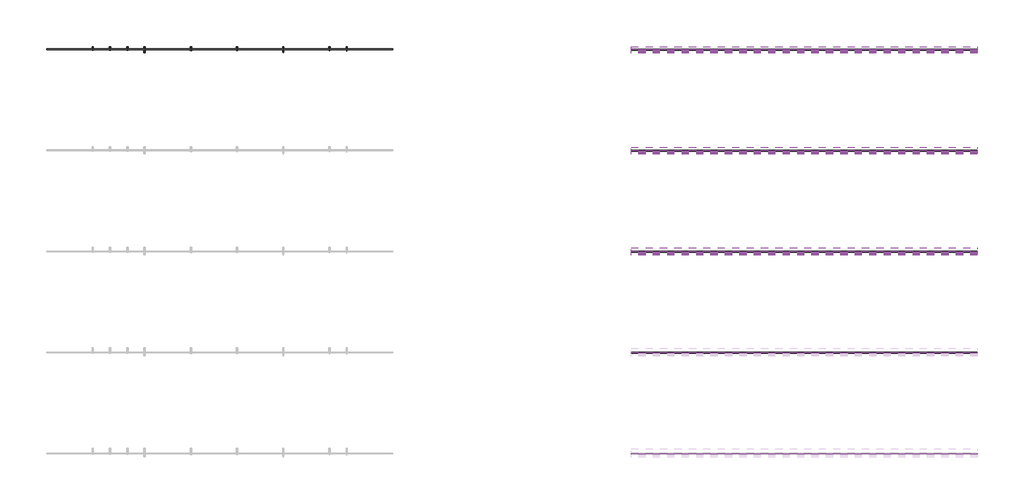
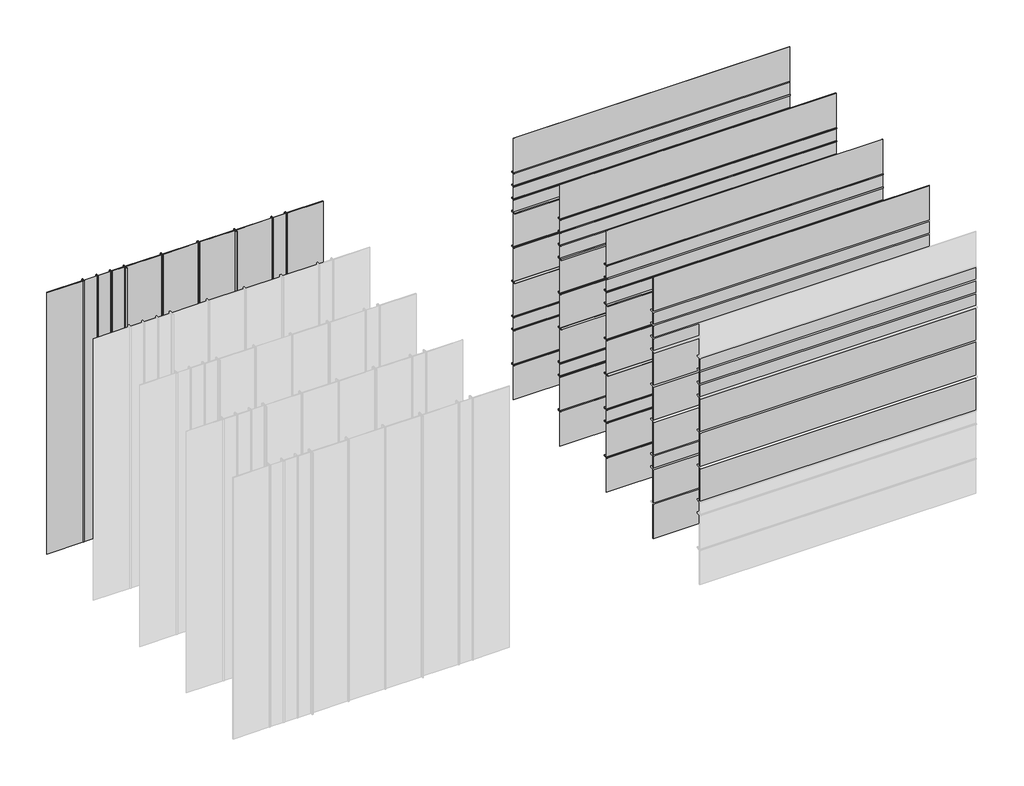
# One storey, part 3 of 3: 56 plates, 36 members.
"""IFC4 building model written with IfcOpenShell, lengths in millimetres."""

from ifc_helpers import new_model, si_unit, origin, place, context, project, spatial, transform, mapped, element, save
from components import rectangular_mullion_864811ac, rectangular_mullion_f144b1d0, rectangular_mullion_a4653e5e, rectangular_mullion_55d4cf0e, rectangular_mullion_9e8da244, rectangular_mullion_31bb69b8, rectangular_mullion_9ff2e521, rectangular_mullion_4e2d26aa, rectangular_mullion_65842ac5, rectangular_mullion_926e1737, rectangular_mullion_f53bd028, rectangular_mullion_f1bd58e3, rectangular_mullion_6b0ed9ac, rectangular_mullion_d9bfe010, rectangular_mullion_b46a96dc, rectangular_mullion_c69a8f91, rectangular_mullion_db2c93b4, rectangular_mullion_120c3908, rectangular_mullion_693bc9d2, rectangular_mullion_8fbd9535, rectangular_mullion_25a7c6fc, rectangular_mullion_629073e1, rectangular_mullion_5f3b20f2, rectangular_mullion_7f9c3200, rectangular_mullion_da6e7a92, rectangular_mullion_d2fe4da0, rectangular_mullion_e10f46b2, rectangular_mullion_2f30c226, system_panel_glazed_d93a0c65, system_panel_glazed_eeb16b76, system_panel_glazed_27cd61de, system_panel_glazed_01db162c, system_panel_glazed_1a993f0c, system_panel_glazed_b61b2489, system_panel_glazed_47dfef42, system_panel_glazed_590bdfaf

model = new_model("IFC4")

# Units and contexts
model_context = context("Model", 3, world=origin())
ifc_project = project(units=[si_unit("LENGTHUNIT", "METRE", prefix="MILLI")], contexts=[model_context])

# Site, building, storey
site = spatial("IfcSite", under=ifc_project)
building = spatial("IfcBuilding", under=site)
storey = spatial("IfcBuildingStorey", under=building, Name="REY 01 - Overview Mullions", Elevation=0.0)

# Members
placement = place(None, origin())
rectangular_mullion_shape = rectangular_mullion_864811ac(model_context)
element("IfcMember", 1, ObjectType="Rectangular Mullion : Reynaers_CW-50_Transom-Transom_83.5mm_Facecap-02A", at=placement, inside=storey, context=model_context, shape_type="MappedRepresentation", body=[
    mapped(rectangular_mullion_shape, transform((-14129.591144, 2399.6459989, 0.0), x_axis=(-1.0, 0.0, 0.0), y_axis=(0.0, 1.0, 0.0), z_axis=(0.0, 0.0, -1.0))),
])
element("IfcMember", 2, ObjectType="Rectangular Mullion : Reynaers_CW-50_Transom-Transom_83.5mm_Facecap-02A", at=placement, inside=storey, context=model_context, shape_type="MappedRepresentation", body=[
    mapped(rectangular_mullion_shape, transform((4520.408856, 2387.1459989, 10400.0), x_axis=(0.0, 0.0, 1.0), y_axis=(0.0, 1.0, 0.0), z_axis=(-1.0, 0.0, 0.0))),
])
rectangular_mullion_2_shape = rectangular_mullion_f144b1d0(model_context)
element("IfcMember", 3, ObjectType="Rectangular Mullion : Reynaers_CW-50_Transom-Transom_83.5mm_Facecap-02B", at=placement, inside=storey, context=model_context, shape_type="MappedRepresentation", body=[
    mapped(rectangular_mullion_2_shape, transform((-13529.591144, 2399.6459989, 0.0), x_axis=(-1.0, 0.0, 0.0), y_axis=(0.0, 1.0, 0.0), z_axis=(0.0, 0.0, -1.0))),
])
element("IfcMember", 4, ObjectType="Rectangular Mullion : Reynaers_CW-50_Transom-Transom_83.5mm_Facecap-02B", at=placement, inside=storey, context=model_context, shape_type="MappedRepresentation", body=[
    mapped(rectangular_mullion_2_shape, transform((4520.408856, 2387.1459989, 9800.0), x_axis=(0.0, 0.0, 1.0), y_axis=(0.0, 1.0, 0.0), z_axis=(-1.0, 0.0, 0.0))),
])
rectangular_mullion_3_shape = rectangular_mullion_a4653e5e(model_context)
element("IfcMember", 5, ObjectType="Rectangular Mullion : Reynaers_CW-50_Transom-Transom_83.5mm_Facecap-02C", at=placement, inside=storey, context=model_context, shape_type="MappedRepresentation", body=[
    mapped(rectangular_mullion_3_shape, transform((-12929.591144, 2399.6459989, 0.0), x_axis=(-1.0, 0.0, 0.0), y_axis=(0.0, 1.0, 0.0), z_axis=(0.0, 0.0, -1.0))),
])
element("IfcMember", 6, ObjectType="Rectangular Mullion : Reynaers_CW-50_Transom-Transom_83.5mm_Facecap-02C", at=placement, inside=storey, context=model_context, shape_type="MappedRepresentation", body=[
    mapped(rectangular_mullion_3_shape, transform((4520.408856, 2387.1459989, 9200.0), x_axis=(0.0, 0.0, 1.0), y_axis=(0.0, 1.0, 0.0), z_axis=(-1.0, 0.0, 0.0))),
])
rectangular_mullion_4_shape = rectangular_mullion_55d4cf0e(model_context)
element("IfcMember", 7, ObjectType="Rectangular Mullion : Reynaers_CW-50_Transom-Transom_83.5mm_Facecap-02D", at=placement, inside=storey, context=model_context, shape_type="MappedRepresentation", body=[
    mapped(rectangular_mullion_4_shape, transform((-12329.591144, 2399.6459989, 0.0), x_axis=(-1.0, 0.0, 0.0), y_axis=(0.0, 1.0, 0.0), z_axis=(0.0, 0.0, -1.0))),
])
element("IfcMember", 8, ObjectType="Rectangular Mullion : Reynaers_CW-50_Transom-Transom_83.5mm_Facecap-02D", at=placement, inside=storey, context=model_context, shape_type="MappedRepresentation", body=[
    mapped(rectangular_mullion_4_shape, transform((4520.408856, 2387.1459989, 8600.0), x_axis=(0.0, 0.0, 1.0), y_axis=(0.0, 1.0, 0.0), z_axis=(-1.0, 0.0, 0.0))),
])
rectangular_mullion_5_shape = rectangular_mullion_9e8da244(model_context)
element("IfcMember", 9, ObjectType="Rectangular Mullion : Reynaers_CW-50_Transom-Transom_83.5mm_Facecap-03", at=placement, inside=storey, context=model_context, shape_type="MappedRepresentation", body=[
    mapped(rectangular_mullion_5_shape, transform((-10729.591144, 2399.6459989, 0.0), x_axis=(-1.0, 0.0, 0.0), y_axis=(0.0, 1.0, 0.0), z_axis=(0.0, 0.0, -1.0))),
])
element("IfcMember", 10, ObjectType="Rectangular Mullion : Reynaers_CW-50_Transom-Transom_83.5mm_Facecap-03", at=placement, inside=storey, context=model_context, shape_type="MappedRepresentation", body=[
    mapped(rectangular_mullion_5_shape, transform((4520.408856, 2387.1459989, 7000.0), x_axis=(0.0, 0.0, 1.0), y_axis=(0.0, 1.0, 0.0), z_axis=(-1.0, 0.0, 0.0))),
])
rectangular_mullion_6_shape = rectangular_mullion_31bb69b8(model_context)
element("IfcMember", 11, ObjectType="Rectangular Mullion : Reynaers_CW-50_Transom-Transom_Vertical_83.5mm_Facecap-04", at=placement, inside=storey, context=model_context, shape_type="MappedRepresentation", body=[
    mapped(rectangular_mullion_6_shape, transform((-9129.591144, 2399.6459989, 0.0), x_axis=(-1.0, 0.0, 0.0), y_axis=(0.0, 1.0, 0.0), z_axis=(0.0, 0.0, -1.0))),
])
rectangular_mullion_7_shape = rectangular_mullion_9ff2e521(model_context)
element("IfcMember", 12, ObjectType="Rectangular Mullion : Reynaers_CW-50_Transom-Transom_83.5mm_Facecap-05", at=placement, inside=storey, context=model_context, shape_type="MappedRepresentation", body=[
    mapped(rectangular_mullion_7_shape, transform((-7529.591144, 2399.6459989, 0.0), x_axis=(-1.0, 0.0, 0.0), y_axis=(0.0, 1.0, 0.0), z_axis=(0.0, 0.0, -1.0))),
])
element("IfcMember", 13, ObjectType="Rectangular Mullion : Reynaers_CW-50_Transom-Transom_83.5mm_Facecap-05", at=placement, inside=storey, context=model_context, shape_type="MappedRepresentation", body=[
    mapped(rectangular_mullion_7_shape, transform((4520.408856, 2387.1459989, 5400.0), x_axis=(0.0, 0.0, 1.0), y_axis=(0.0, 1.0, 0.0), z_axis=(-1.0, 0.0, 0.0))),
])
rectangular_mullion_8_shape = rectangular_mullion_4e2d26aa(model_context)
element("IfcMember", 14, ObjectType="Rectangular Mullion : Reynaers_CW-50_Transom-Transom_83.5mm_Facecap-06A", at=placement, inside=storey, context=model_context, shape_type="MappedRepresentation", body=[
    mapped(rectangular_mullion_8_shape, transform((-5929.591144, 2399.6459989, 0.0), x_axis=(-1.0, 0.0, 0.0), y_axis=(0.0, 1.0, 0.0), z_axis=(0.0, 0.0, -1.0))),
])
element("IfcMember", 15, ObjectType="Rectangular Mullion : Reynaers_CW-50_Transom-Transom_83.5mm_Facecap-06A", at=placement, inside=storey, context=model_context, shape_type="MappedRepresentation", body=[
    mapped(rectangular_mullion_8_shape, transform((4520.408856, 2387.1459989, 3800.0), x_axis=(0.0, 0.0, 1.0), y_axis=(0.0, 1.0, 0.0), z_axis=(-1.0, 0.0, 0.0))),
])
rectangular_mullion_9_shape = rectangular_mullion_65842ac5(model_context)
element("IfcMember", 16, ObjectType="Rectangular Mullion : Reynaers_CW-50_Transom-Transom_83.5mm_Facecap-06B", at=placement, inside=storey, context=model_context, shape_type="MappedRepresentation", body=[
    mapped(rectangular_mullion_9_shape, transform((-5329.591144, 2399.6459989, 0.0), x_axis=(-1.0, 0.0, 0.0), y_axis=(0.0, 1.0, 0.0), z_axis=(0.0, 0.0, -1.0))),
])
element("IfcMember", 17, ObjectType="Rectangular Mullion : Reynaers_CW-50_Transom-Transom_83.5mm_Facecap-06B", at=placement, inside=storey, context=model_context, shape_type="MappedRepresentation", body=[
    mapped(rectangular_mullion_9_shape, transform((4520.408856, 2387.1459989, 3200.0), x_axis=(0.0, 0.0, 1.0), y_axis=(0.0, 1.0, 0.0), z_axis=(-1.0, 0.0, 0.0))),
])
rectangular_mullion_10_shape = rectangular_mullion_926e1737(model_context)
element("IfcMember", 18, ObjectType="Rectangular Mullion : Reynaers_CW-50_Transom-Transom_104.5mm_Facecap-02A", at=placement, inside=storey, context=model_context, shape_type="MappedRepresentation", body=[
    mapped(rectangular_mullion_10_shape, transform((4520.408856, -1112.8540011, 10400.0), x_axis=(0.0, 0.0, 1.0), y_axis=(0.0, 1.0, 0.0), z_axis=(-1.0, 0.0, 0.0))),
])
rectangular_mullion_11_shape = rectangular_mullion_f53bd028(model_context)
element("IfcMember", 19, ObjectType="Rectangular Mullion : Reynaers_CW-50_Transom-Transom_104.5mm_Facecap-02B", at=placement, inside=storey, context=model_context, shape_type="MappedRepresentation", body=[
    mapped(rectangular_mullion_11_shape, transform((4520.408856, -1112.8540011, 9800.0), x_axis=(0.0, 0.0, 1.0), y_axis=(0.0, 1.0, 0.0), z_axis=(-1.0, 0.0, 0.0))),
])
rectangular_mullion_12_shape = rectangular_mullion_f1bd58e3(model_context)
element("IfcMember", 20, ObjectType="Rectangular Mullion : Reynaers_CW-50_Transom-Transom_104.5mm_Facecap-02C", at=placement, inside=storey, context=model_context, shape_type="MappedRepresentation", body=[
    mapped(rectangular_mullion_12_shape, transform((4520.408856, -1112.8540011, 9200.0), x_axis=(0.0, 0.0, 1.0), y_axis=(0.0, 1.0, 0.0), z_axis=(-1.0, 0.0, 0.0))),
])
rectangular_mullion_13_shape = rectangular_mullion_6b0ed9ac(model_context)
element("IfcMember", 21, ObjectType="Rectangular Mullion : Reynaers_CW-50_Transom-Transom_104.5mm_Facecap-02D", at=placement, inside=storey, context=model_context, shape_type="MappedRepresentation", body=[
    mapped(rectangular_mullion_13_shape, transform((4520.408856, -1112.8540011, 8600.0), x_axis=(0.0, 0.0, 1.0), y_axis=(0.0, 1.0, 0.0), z_axis=(-1.0, 0.0, 0.0))),
])
rectangular_mullion_14_shape = rectangular_mullion_d9bfe010(model_context)
element("IfcMember", 22, ObjectType="Rectangular Mullion : Reynaers_CW-50_Transom-Transom_104.5mm_Facecap-03", at=placement, inside=storey, context=model_context, shape_type="MappedRepresentation", body=[
    mapped(rectangular_mullion_14_shape, transform((4520.408856, -1112.8540011, 7000.0), x_axis=(0.0, 0.0, 1.0), y_axis=(0.0, 1.0, 0.0), z_axis=(-1.0, 0.0, 0.0))),
])
rectangular_mullion_15_shape = rectangular_mullion_b46a96dc(model_context)
element("IfcMember", 23, ObjectType="Rectangular Mullion : Reynaers_CW-50_Transom-Transom_104.5mm_Facecap-05", at=placement, inside=storey, context=model_context, shape_type="MappedRepresentation", body=[
    mapped(rectangular_mullion_15_shape, transform((4520.408856, -1112.8540011, 5400.0), x_axis=(0.0, 0.0, 1.0), y_axis=(0.0, 1.0, 0.0), z_axis=(-1.0, 0.0, 0.0))),
])
rectangular_mullion_16_shape = rectangular_mullion_c69a8f91(model_context)
element("IfcMember", 24, ObjectType="Rectangular Mullion : Reynaers_CW-50_Transom-Transom_104.5mm_Facecap-06A", at=placement, inside=storey, context=model_context, shape_type="MappedRepresentation", body=[
    mapped(rectangular_mullion_16_shape, transform((4520.408856, -1112.8540011, 3800.0), x_axis=(0.0, 0.0, 1.0), y_axis=(0.0, 1.0, 0.0), z_axis=(-1.0, 0.0, 0.0))),
])
rectangular_mullion_17_shape = rectangular_mullion_db2c93b4(model_context)
element("IfcMember", 25, ObjectType="Rectangular Mullion : Reynaers_CW-50_Transom-Transom_104.5mm_Facecap-06B", at=placement, inside=storey, context=model_context, shape_type="MappedRepresentation", body=[
    mapped(rectangular_mullion_17_shape, transform((4520.408856, -1112.8540011, 3200.0), x_axis=(0.0, 0.0, 1.0), y_axis=(0.0, 1.0, 0.0), z_axis=(-1.0, 0.0, 0.0))),
])
rectangular_mullion_18_shape = rectangular_mullion_120c3908(model_context)
element("IfcMember", 26, ObjectType="Rectangular Mullion : Reynaers_CW-50_Transom-Transom_125.5mm_Facecap-02A", at=placement, inside=storey, context=model_context, shape_type="MappedRepresentation", body=[
    mapped(rectangular_mullion_18_shape, transform((4520.408856, -4612.8540011, 10400.0), x_axis=(0.0, 0.0, 1.0), y_axis=(0.0, 1.0, 0.0), z_axis=(-1.0, 0.0, 0.0))),
])
rectangular_mullion_19_shape = rectangular_mullion_693bc9d2(model_context)
element("IfcMember", 27, ObjectType="Rectangular Mullion : Reynaers_CW-50_Transom-Transom_125.5mm_Facecap-02B", at=placement, inside=storey, context=model_context, shape_type="MappedRepresentation", body=[
    mapped(rectangular_mullion_19_shape, transform((4520.408856, -4612.8540011, 9800.0), x_axis=(0.0, 0.0, 1.0), y_axis=(0.0, 1.0, 0.0), z_axis=(-1.0, 0.0, 0.0))),
])
rectangular_mullion_20_shape = rectangular_mullion_8fbd9535(model_context)
element("IfcMember", 28, ObjectType="Rectangular Mullion : Reynaers_CW-50_Transom-Transom_125.5mm_Facecap-02C", at=placement, inside=storey, context=model_context, shape_type="MappedRepresentation", body=[
    mapped(rectangular_mullion_20_shape, transform((4520.408856, -4612.8540011, 9200.0), x_axis=(0.0, 0.0, 1.0), y_axis=(0.0, 1.0, 0.0), z_axis=(-1.0, 0.0, 0.0))),
])
rectangular_mullion_21_shape = rectangular_mullion_25a7c6fc(model_context)
element("IfcMember", 29, ObjectType="Rectangular Mullion : Reynaers_CW-50_Transom-Transom_125.5mm_Facecap-02D", at=placement, inside=storey, context=model_context, shape_type="MappedRepresentation", body=[
    mapped(rectangular_mullion_21_shape, transform((4520.408856, -4612.8540011, 8600.0), x_axis=(0.0, 0.0, 1.0), y_axis=(0.0, 1.0, 0.0), z_axis=(-1.0, 0.0, 0.0))),
])
rectangular_mullion_22_shape = rectangular_mullion_629073e1(model_context)
element("IfcMember", 30, ObjectType="Rectangular Mullion : Reynaers_CW-50_Transom-Transom_125.5mm_Facecap-03", at=placement, inside=storey, context=model_context, shape_type="MappedRepresentation", body=[
    mapped(rectangular_mullion_22_shape, transform((4520.408856, -4612.8540011, 7000.0), x_axis=(0.0, 0.0, 1.0), y_axis=(0.0, 1.0, 0.0), z_axis=(-1.0, 0.0, 0.0))),
])
rectangular_mullion_23_shape = rectangular_mullion_5f3b20f2(model_context)
element("IfcMember", 31, ObjectType="Rectangular Mullion : Reynaers_CW-50_Transom-Transom_125.5mm_Facecap-05", at=placement, inside=storey, context=model_context, shape_type="MappedRepresentation", body=[
    mapped(rectangular_mullion_23_shape, transform((4520.408856, -4612.8540011, 5400.0), x_axis=(0.0, 0.0, 1.0), y_axis=(0.0, 1.0, 0.0), z_axis=(-1.0, 0.0, 0.0))),
])
rectangular_mullion_24_shape = rectangular_mullion_7f9c3200(model_context)
element("IfcMember", 32, ObjectType="Rectangular Mullion : Reynaers_CW-50_Transom-Transom_125.5mm_Facecap-06A", at=placement, inside=storey, context=model_context, shape_type="MappedRepresentation", body=[
    mapped(rectangular_mullion_24_shape, transform((4520.408856, -4612.8540011, 3800.0), x_axis=(0.0, 0.0, 1.0), y_axis=(0.0, 1.0, 0.0), z_axis=(-1.0, 0.0, 0.0))),
])
rectangular_mullion_25_shape = rectangular_mullion_da6e7a92(model_context)
element("IfcMember", 33, ObjectType="Rectangular Mullion : Reynaers_CW-50_Transom-Transom_125.5mm_Facecap-06B", at=placement, inside=storey, context=model_context, shape_type="MappedRepresentation", body=[
    mapped(rectangular_mullion_25_shape, transform((4520.408856, -4612.8540011, 3200.0), x_axis=(0.0, 0.0, 1.0), y_axis=(0.0, 1.0, 0.0), z_axis=(-1.0, 0.0, 0.0))),
])
rectangular_mullion_26_shape = rectangular_mullion_d2fe4da0(model_context)
element("IfcMember", 34, ObjectType="Rectangular Mullion : Reynaers_CW-50_Transom-Transom_Horizontal_83.5mm_Facecap-07", at=placement, inside=storey, context=model_context, shape_type="MappedRepresentation", body=[
    mapped(rectangular_mullion_26_shape, transform((4520.408856, 2387.1459989, 1600.0), x_axis=(0.0, 0.0, 1.0), y_axis=(0.0, 1.0, 0.0), z_axis=(-1.0, 0.0, 0.0))),
])
rectangular_mullion_27_shape = rectangular_mullion_e10f46b2(model_context)
element("IfcMember", 35, ObjectType="Rectangular Mullion : Reynaers_CW-50_Transom-Transom_Horizontal_104.5mm_Facecap-07", at=placement, inside=storey, context=model_context, shape_type="MappedRepresentation", body=[
    mapped(rectangular_mullion_27_shape, transform((4520.408856, -1112.8540011, 1600.0), x_axis=(0.0, 0.0, 1.0), y_axis=(0.0, 1.0, 0.0), z_axis=(-1.0, 0.0, 0.0))),
])
rectangular_mullion_28_shape = rectangular_mullion_2f30c226(model_context)
element("IfcMember", 36, ObjectType="Rectangular Mullion : Reynaers_CW-50_Transom-Transom_Horizontal_125.5mm_Facecap-07", at=placement, inside=storey, context=model_context, shape_type="MappedRepresentation", body=[
    mapped(rectangular_mullion_28_shape, transform((4520.408856, -4612.8540011, 1600.0), x_axis=(0.0, 0.0, 1.0), y_axis=(0.0, 1.0, 0.0), z_axis=(-1.0, 0.0, 0.0))),
])

# Plates
system_panel_glazed_shape = system_panel_glazed_d93a0c65(model_context)
element("IfcPlate", 37, ObjectType="System Panel : Glazed", at=placement, inside=storey, context=model_context, shape_type="MappedRepresentation", body=[
    mapped(system_panel_glazed_shape, transform((-4527.140941, 2399.6459989, 0.0), x_axis=(-1.0, 0.0, 0.0), y_axis=(0.0, -1.0, 0.0), z_axis=(0.0, 0.0, 1.0))),
])
system_panel_glazed_2_shape = system_panel_glazed_eeb16b76(model_context)
element("IfcPlate", 38, ObjectType="System Panel : Glazed", at=placement, inside=storey, context=model_context, shape_type="MappedRepresentation", body=[
    mapped(system_panel_glazed_2_shape, transform((-14932.240941, 2399.6459989, 0.0), x_axis=(-1.0, 0.0, 0.0), y_axis=(0.0, -1.0, 0.0), z_axis=(0.0, 0.0, 1.0))),
])
system_panel_glazed_3_shape = system_panel_glazed_27cd61de(model_context)
element("IfcPlate", 39, ObjectType="System Panel : Glazed", at=placement, inside=storey, context=model_context, shape_type="MappedRepresentation", body=[
    mapped(system_panel_glazed_3_shape, transform((-5629.7907381, 2399.6459989, 0.0), x_axis=(-1.0, 0.0, 0.0), y_axis=(0.0, -1.0, 0.0), z_axis=(0.0, 0.0, 1.0))),
])
element("IfcPlate", 40, ObjectType="System Panel : Glazed", at=placement, inside=storey, context=model_context, shape_type="MappedRepresentation", body=[
    mapped(system_panel_glazed_3_shape, transform((-13829.7907381, 2399.6459989, 0.0), x_axis=(-1.0, 0.0, 0.0), y_axis=(0.0, -1.0, 0.0), z_axis=(0.0, 0.0, 1.0))),
])
element("IfcPlate", 41, ObjectType="System Panel : Glazed", at=placement, inside=storey, context=model_context, shape_type="MappedRepresentation", body=[
    mapped(system_panel_glazed_3_shape, transform((-13229.7907381, 2399.6459989, 0.0), x_axis=(-1.0, 0.0, 0.0), y_axis=(0.0, -1.0, 0.0), z_axis=(0.0, 0.0, 1.0))),
])
element("IfcPlate", 42, ObjectType="System Panel : Glazed", at=placement, inside=storey, context=model_context, shape_type="MappedRepresentation", body=[
    mapped(system_panel_glazed_3_shape, transform((-12629.7907381, 2399.6459989, 0.0), x_axis=(-1.0, 0.0, 0.0), y_axis=(0.0, -1.0, 0.0), z_axis=(0.0, 0.0, 1.0))),
])
system_panel_glazed_4_shape = system_panel_glazed_01db162c(model_context)
element("IfcPlate", 43, ObjectType="System Panel : Glazed", at=placement, inside=storey, context=model_context, shape_type="MappedRepresentation", body=[
    mapped(system_panel_glazed_4_shape, transform((-6729.7907381, 2399.6459989, 0.0), x_axis=(-1.0, 0.0, 0.0), y_axis=(0.0, -1.0, 0.0), z_axis=(0.0, 0.0, 1.0))),
])
element("IfcPlate", 44, ObjectType="System Panel : Glazed", at=placement, inside=storey, context=model_context, shape_type="MappedRepresentation", body=[
    mapped(system_panel_glazed_4_shape, transform((-8329.7907381, 2399.6459989, 0.0), x_axis=(-1.0, 0.0, 0.0), y_axis=(0.0, -1.0, 0.0), z_axis=(0.0, 0.0, 1.0))),
])
element("IfcPlate", 45, ObjectType="System Panel : Glazed", at=placement, inside=storey, context=model_context, shape_type="MappedRepresentation", body=[
    mapped(system_panel_glazed_4_shape, transform((-9929.7907381, 2399.6459989, 0.0), x_axis=(-1.0, 0.0, 0.0), y_axis=(0.0, -1.0, 0.0), z_axis=(0.0, 0.0, 1.0))),
])
element("IfcPlate", 46, ObjectType="System Panel : Glazed", at=placement, inside=storey, context=model_context, shape_type="MappedRepresentation", body=[
    mapped(system_panel_glazed_4_shape, transform((-11529.7907381, 2399.6459989, 0.0), x_axis=(-1.0, 0.0, 0.0), y_axis=(0.0, -1.0, 0.0), z_axis=(0.0, 0.0, 1.0))),
])
system_panel_glazed_5_shape = system_panel_glazed_1a993f0c(model_context)
element("IfcPlate", 47, ObjectType="System Panel : Glazed", at=placement, inside=storey, context=model_context, shape_type="MappedRepresentation", body=[
    mapped(system_panel_glazed_5_shape, transform((10520.408856, 2387.1459989, 10405.2995941), x_axis=(-1.0, 0.0, 0.0), y_axis=(0.0, -1.0, 0.0), z_axis=(0.0, 0.0, 1.0))),
])
element("IfcPlate", 48, ObjectType="System Panel : Glazed", at=placement, inside=storey, context=model_context, shape_type="MappedRepresentation", body=[
    mapped(system_panel_glazed_5_shape, transform((10520.408856, -1112.8540011, 10405.2995941), x_axis=(-1.0, 0.0, 0.0), y_axis=(0.0, -1.0, 0.0), z_axis=(0.0, 0.0, 1.0))),
])
element("IfcPlate", 49, ObjectType="System Panel : Glazed", at=placement, inside=storey, context=model_context, shape_type="MappedRepresentation", body=[
    mapped(system_panel_glazed_5_shape, transform((10520.408856, -4612.8540011, 10405.2995941), x_axis=(-1.0, 0.0, 0.0), y_axis=(0.0, -1.0, 0.0), z_axis=(0.0, 0.0, 1.0))),
])
element("IfcPlate", 50, ObjectType="System Panel : Glazed", at=placement, inside=storey, context=model_context, shape_type="MappedRepresentation", body=[
    mapped(system_panel_glazed_5_shape, transform((10520.408856, -8112.8540011, 10405.2995941), x_axis=(-1.0, 0.0, 0.0), y_axis=(0.0, -1.0, 0.0), z_axis=(0.0, 0.0, 1.0))),
])
system_panel_glazed_6_shape = system_panel_glazed_b61b2489(model_context)
element("IfcPlate", 51, ObjectType="System Panel : Glazed", at=placement, inside=storey, context=model_context, shape_type="MappedRepresentation", body=[
    mapped(system_panel_glazed_6_shape, transform((10520.408856, 2387.1459989, 3205.2995941), x_axis=(-1.0, 0.0, 0.0), y_axis=(0.0, -1.0, 0.0), z_axis=(0.0, 0.0, 1.0))),
])
element("IfcPlate", 52, ObjectType="System Panel : Glazed", at=placement, inside=storey, context=model_context, shape_type="MappedRepresentation", body=[
    mapped(system_panel_glazed_6_shape, transform((10520.408856, 2387.1459989, 8605.2995941), x_axis=(-1.0, 0.0, 0.0), y_axis=(0.0, -1.0, 0.0), z_axis=(0.0, 0.0, 1.0))),
])
element("IfcPlate", 53, ObjectType="System Panel : Glazed", at=placement, inside=storey, context=model_context, shape_type="MappedRepresentation", body=[
    mapped(system_panel_glazed_6_shape, transform((10520.408856, 2387.1459989, 9205.2995941), x_axis=(-1.0, 0.0, 0.0), y_axis=(0.0, -1.0, 0.0), z_axis=(0.0, 0.0, 1.0))),
])
element("IfcPlate", 54, ObjectType="System Panel : Glazed", at=placement, inside=storey, context=model_context, shape_type="MappedRepresentation", body=[
    mapped(system_panel_glazed_6_shape, transform((10520.408856, 2387.1459989, 9805.2995941), x_axis=(-1.0, 0.0, 0.0), y_axis=(0.0, -1.0, 0.0), z_axis=(0.0, 0.0, 1.0))),
])
element("IfcPlate", 55, ObjectType="System Panel : Glazed", at=placement, inside=storey, context=model_context, shape_type="MappedRepresentation", body=[
    mapped(system_panel_glazed_6_shape, transform((10520.408856, -1112.8540011, 3205.2995941), x_axis=(-1.0, 0.0, 0.0), y_axis=(0.0, -1.0, 0.0), z_axis=(0.0, 0.0, 1.0))),
])
element("IfcPlate", 56, ObjectType="System Panel : Glazed", at=placement, inside=storey, context=model_context, shape_type="MappedRepresentation", body=[
    mapped(system_panel_glazed_6_shape, transform((10520.408856, -1112.8540011, 8605.2995941), x_axis=(-1.0, 0.0, 0.0), y_axis=(0.0, -1.0, 0.0), z_axis=(0.0, 0.0, 1.0))),
])
element("IfcPlate", 57, ObjectType="System Panel : Glazed", at=placement, inside=storey, context=model_context, shape_type="MappedRepresentation", body=[
    mapped(system_panel_glazed_6_shape, transform((10520.408856, -1112.8540011, 9205.2995941), x_axis=(-1.0, 0.0, 0.0), y_axis=(0.0, -1.0, 0.0), z_axis=(0.0, 0.0, 1.0))),
])
element("IfcPlate", 58, ObjectType="System Panel : Glazed", at=placement, inside=storey, context=model_context, shape_type="MappedRepresentation", body=[
    mapped(system_panel_glazed_6_shape, transform((10520.408856, -1112.8540011, 9805.2995941), x_axis=(-1.0, 0.0, 0.0), y_axis=(0.0, -1.0, 0.0), z_axis=(0.0, 0.0, 1.0))),
])
element("IfcPlate", 59, ObjectType="System Panel : Glazed", at=placement, inside=storey, context=model_context, shape_type="MappedRepresentation", body=[
    mapped(system_panel_glazed_6_shape, transform((10520.408856, -4612.8540011, 3205.2995941), x_axis=(-1.0, 0.0, 0.0), y_axis=(0.0, -1.0, 0.0), z_axis=(0.0, 0.0, 1.0))),
])
element("IfcPlate", 60, ObjectType="System Panel : Glazed", at=placement, inside=storey, context=model_context, shape_type="MappedRepresentation", body=[
    mapped(system_panel_glazed_6_shape, transform((10520.408856, -4612.8540011, 8605.2995941), x_axis=(-1.0, 0.0, 0.0), y_axis=(0.0, -1.0, 0.0), z_axis=(0.0, 0.0, 1.0))),
])
element("IfcPlate", 61, ObjectType="System Panel : Glazed", at=placement, inside=storey, context=model_context, shape_type="MappedRepresentation", body=[
    mapped(system_panel_glazed_6_shape, transform((10520.408856, -4612.8540011, 9205.2995941), x_axis=(-1.0, 0.0, 0.0), y_axis=(0.0, -1.0, 0.0), z_axis=(0.0, 0.0, 1.0))),
])
element("IfcPlate", 62, ObjectType="System Panel : Glazed", at=placement, inside=storey, context=model_context, shape_type="MappedRepresentation", body=[
    mapped(system_panel_glazed_6_shape, transform((10520.408856, -4612.8540011, 9805.2995941), x_axis=(-1.0, 0.0, 0.0), y_axis=(0.0, -1.0, 0.0), z_axis=(0.0, 0.0, 1.0))),
])
element("IfcPlate", 63, ObjectType="System Panel : Glazed", at=placement, inside=storey, context=model_context, shape_type="MappedRepresentation", body=[
    mapped(system_panel_glazed_6_shape, transform((10520.408856, -8112.8540011, 3205.2995941), x_axis=(-1.0, 0.0, 0.0), y_axis=(0.0, -1.0, 0.0), z_axis=(0.0, 0.0, 1.0))),
])
element("IfcPlate", 64, ObjectType="System Panel : Glazed", at=placement, inside=storey, context=model_context, shape_type="MappedRepresentation", body=[
    mapped(system_panel_glazed_6_shape, transform((10520.408856, -8112.8540011, 8605.2995941), x_axis=(-1.0, 0.0, 0.0), y_axis=(0.0, -1.0, 0.0), z_axis=(0.0, 0.0, 1.0))),
])
element("IfcPlate", 65, ObjectType="System Panel : Glazed", at=placement, inside=storey, context=model_context, shape_type="MappedRepresentation", body=[
    mapped(system_panel_glazed_6_shape, transform((10520.408856, -8112.8540011, 9205.2995941), x_axis=(-1.0, 0.0, 0.0), y_axis=(0.0, -1.0, 0.0), z_axis=(0.0, 0.0, 1.0))),
])
element("IfcPlate", 66, ObjectType="System Panel : Glazed", at=placement, inside=storey, context=model_context, shape_type="MappedRepresentation", body=[
    mapped(system_panel_glazed_6_shape, transform((10520.408856, -8112.8540011, 9805.2995941), x_axis=(-1.0, 0.0, 0.0), y_axis=(0.0, -1.0, 0.0), z_axis=(0.0, 0.0, 1.0))),
])
element("IfcPlate", 67, ObjectType="System Panel : Glazed", at=placement, inside=storey, context=model_context, shape_type="MappedRepresentation", body=[
    mapped(system_panel_glazed_6_shape, transform((10520.408856, -11612.8540011, 8605.2995941), x_axis=(-1.0, 0.0, 0.0), y_axis=(0.0, -1.0, 0.0), z_axis=(0.0, 0.0, 1.0))),
])
element("IfcPlate", 68, ObjectType="System Panel : Glazed", at=placement, inside=storey, context=model_context, shape_type="MappedRepresentation", body=[
    mapped(system_panel_glazed_6_shape, transform((10520.408856, -11612.8540011, 9205.2995941), x_axis=(-1.0, 0.0, 0.0), y_axis=(0.0, -1.0, 0.0), z_axis=(0.0, 0.0, 1.0))),
])
element("IfcPlate", 69, ObjectType="System Panel : Glazed", at=placement, inside=storey, context=model_context, shape_type="MappedRepresentation", body=[
    mapped(system_panel_glazed_6_shape, transform((10520.408856, -11612.8540011, 9805.2995941), x_axis=(-1.0, 0.0, 0.0), y_axis=(0.0, -1.0, 0.0), z_axis=(0.0, 0.0, 1.0))),
])
system_panel_glazed_7_shape = system_panel_glazed_47dfef42(model_context)
element("IfcPlate", 70, ObjectType="System Panel : Glazed", at=placement, inside=storey, context=model_context, shape_type="MappedRepresentation", body=[
    mapped(system_panel_glazed_7_shape, transform((10520.408856, 2387.1459989, 1605.2995941), x_axis=(-1.0, 0.0, 0.0), y_axis=(0.0, -1.0, 0.0), z_axis=(0.0, 0.0, 1.0))),
])
element("IfcPlate", 71, ObjectType="System Panel : Glazed", at=placement, inside=storey, context=model_context, shape_type="MappedRepresentation", body=[
    mapped(system_panel_glazed_7_shape, transform((10520.408856, 2387.1459989, 3805.2995941), x_axis=(-1.0, 0.0, 0.0), y_axis=(0.0, -1.0, 0.0), z_axis=(0.0, 0.0, 1.0))),
])
element("IfcPlate", 72, ObjectType="System Panel : Glazed", at=placement, inside=storey, context=model_context, shape_type="MappedRepresentation", body=[
    mapped(system_panel_glazed_7_shape, transform((10520.408856, 2387.1459989, 7005.2995941), x_axis=(-1.0, 0.0, 0.0), y_axis=(0.0, -1.0, 0.0), z_axis=(0.0, 0.0, 1.0))),
])
element("IfcPlate", 73, ObjectType="System Panel : Glazed", at=placement, inside=storey, context=model_context, shape_type="MappedRepresentation", body=[
    mapped(system_panel_glazed_7_shape, transform((10520.408856, 2387.1459989, 5405.2995941), x_axis=(-1.0, 0.0, 0.0), y_axis=(0.0, -1.0, 0.0), z_axis=(0.0, 0.0, 1.0))),
])
element("IfcPlate", 74, ObjectType="System Panel : Glazed", at=placement, inside=storey, context=model_context, shape_type="MappedRepresentation", body=[
    mapped(system_panel_glazed_7_shape, transform((10520.408856, -1112.8540011, 1605.2995941), x_axis=(-1.0, 0.0, 0.0), y_axis=(0.0, -1.0, 0.0), z_axis=(0.0, 0.0, 1.0))),
])
element("IfcPlate", 75, ObjectType="System Panel : Glazed", at=placement, inside=storey, context=model_context, shape_type="MappedRepresentation", body=[
    mapped(system_panel_glazed_7_shape, transform((10520.408856, -1112.8540011, 3805.2995941), x_axis=(-1.0, 0.0, 0.0), y_axis=(0.0, -1.0, 0.0), z_axis=(0.0, 0.0, 1.0))),
])
element("IfcPlate", 76, ObjectType="System Panel : Glazed", at=placement, inside=storey, context=model_context, shape_type="MappedRepresentation", body=[
    mapped(system_panel_glazed_7_shape, transform((10520.408856, -1112.8540011, 7005.2995941), x_axis=(-1.0, 0.0, 0.0), y_axis=(0.0, -1.0, 0.0), z_axis=(0.0, 0.0, 1.0))),
])
element("IfcPlate", 77, ObjectType="System Panel : Glazed", at=placement, inside=storey, context=model_context, shape_type="MappedRepresentation", body=[
    mapped(system_panel_glazed_7_shape, transform((10520.408856, -1112.8540011, 5405.2995941), x_axis=(-1.0, 0.0, 0.0), y_axis=(0.0, -1.0, 0.0), z_axis=(0.0, 0.0, 1.0))),
])
element("IfcPlate", 78, ObjectType="System Panel : Glazed", at=placement, inside=storey, context=model_context, shape_type="MappedRepresentation", body=[
    mapped(system_panel_glazed_7_shape, transform((10520.408856, -4612.8540011, 1605.2995941), x_axis=(-1.0, 0.0, 0.0), y_axis=(0.0, -1.0, 0.0), z_axis=(0.0, 0.0, 1.0))),
])
element("IfcPlate", 79, ObjectType="System Panel : Glazed", at=placement, inside=storey, context=model_context, shape_type="MappedRepresentation", body=[
    mapped(system_panel_glazed_7_shape, transform((10520.408856, -4612.8540011, 3805.2995941), x_axis=(-1.0, 0.0, 0.0), y_axis=(0.0, -1.0, 0.0), z_axis=(0.0, 0.0, 1.0))),
])
element("IfcPlate", 80, ObjectType="System Panel : Glazed", at=placement, inside=storey, context=model_context, shape_type="MappedRepresentation", body=[
    mapped(system_panel_glazed_7_shape, transform((10520.408856, -4612.8540011, 7005.2995941), x_axis=(-1.0, 0.0, 0.0), y_axis=(0.0, -1.0, 0.0), z_axis=(0.0, 0.0, 1.0))),
])
element("IfcPlate", 81, ObjectType="System Panel : Glazed", at=placement, inside=storey, context=model_context, shape_type="MappedRepresentation", body=[
    mapped(system_panel_glazed_7_shape, transform((10520.408856, -4612.8540011, 5405.2995941), x_axis=(-1.0, 0.0, 0.0), y_axis=(0.0, -1.0, 0.0), z_axis=(0.0, 0.0, 1.0))),
])
element("IfcPlate", 82, ObjectType="System Panel : Glazed", at=placement, inside=storey, context=model_context, shape_type="MappedRepresentation", body=[
    mapped(system_panel_glazed_7_shape, transform((10520.408856, -8112.8540011, 1605.2995941), x_axis=(-1.0, 0.0, 0.0), y_axis=(0.0, -1.0, 0.0), z_axis=(0.0, 0.0, 1.0))),
])
element("IfcPlate", 83, ObjectType="System Panel : Glazed", at=placement, inside=storey, context=model_context, shape_type="MappedRepresentation", body=[
    mapped(system_panel_glazed_7_shape, transform((10520.408856, -8112.8540011, 3805.2995941), x_axis=(-1.0, 0.0, 0.0), y_axis=(0.0, -1.0, 0.0), z_axis=(0.0, 0.0, 1.0))),
])
element("IfcPlate", 84, ObjectType="System Panel : Glazed", at=placement, inside=storey, context=model_context, shape_type="MappedRepresentation", body=[
    mapped(system_panel_glazed_7_shape, transform((10520.408856, -8112.8540011, 7005.2995941), x_axis=(-1.0, 0.0, 0.0), y_axis=(0.0, -1.0, 0.0), z_axis=(0.0, 0.0, 1.0))),
])
element("IfcPlate", 85, ObjectType="System Panel : Glazed", at=placement, inside=storey, context=model_context, shape_type="MappedRepresentation", body=[
    mapped(system_panel_glazed_7_shape, transform((10520.408856, -8112.8540011, 5405.2995941), x_axis=(-1.0, 0.0, 0.0), y_axis=(0.0, -1.0, 0.0), z_axis=(0.0, 0.0, 1.0))),
])
element("IfcPlate", 86, ObjectType="System Panel : Glazed", at=placement, inside=storey, context=model_context, shape_type="MappedRepresentation", body=[
    mapped(system_panel_glazed_7_shape, transform((10520.408856, -11612.8540011, 3805.2995941), x_axis=(-1.0, 0.0, 0.0), y_axis=(0.0, -1.0, 0.0), z_axis=(0.0, 0.0, 1.0))),
])
element("IfcPlate", 87, ObjectType="System Panel : Glazed", at=placement, inside=storey, context=model_context, shape_type="MappedRepresentation", body=[
    mapped(system_panel_glazed_7_shape, transform((10520.408856, -11612.8540011, 7005.2995941), x_axis=(-1.0, 0.0, 0.0), y_axis=(0.0, -1.0, 0.0), z_axis=(0.0, 0.0, 1.0))),
])
element("IfcPlate", 88, ObjectType="System Panel : Glazed", at=placement, inside=storey, context=model_context, shape_type="MappedRepresentation", body=[
    mapped(system_panel_glazed_7_shape, transform((10520.408856, -11612.8540011, 5405.2995941), x_axis=(-1.0, 0.0, 0.0), y_axis=(0.0, -1.0, 0.0), z_axis=(0.0, 0.0, 1.0))),
])
system_panel_glazed_8_shape = system_panel_glazed_590bdfaf(model_context)
element("IfcPlate", 89, ObjectType="System Panel : Glazed", at=placement, inside=storey, context=model_context, shape_type="MappedRepresentation", body=[
    mapped(system_panel_glazed_8_shape, transform((10520.408856, 2387.1459989, 0.0), x_axis=(-1.0, 0.0, 0.0), y_axis=(0.0, -1.0, 0.0), z_axis=(0.0, 0.0, 1.0))),
])
element("IfcPlate", 90, ObjectType="System Panel : Glazed", at=placement, inside=storey, context=model_context, shape_type="MappedRepresentation", body=[
    mapped(system_panel_glazed_8_shape, transform((10520.408856, -1112.8540011, 0.0), x_axis=(-1.0, 0.0, 0.0), y_axis=(0.0, -1.0, 0.0), z_axis=(0.0, 0.0, 1.0))),
])
element("IfcPlate", 91, ObjectType="System Panel : Glazed", at=placement, inside=storey, context=model_context, shape_type="MappedRepresentation", body=[
    mapped(system_panel_glazed_8_shape, transform((10520.408856, -4612.8540011, 0.0), x_axis=(-1.0, 0.0, 0.0), y_axis=(0.0, -1.0, 0.0), z_axis=(0.0, 0.0, 1.0))),
])
element("IfcPlate", 92, ObjectType="System Panel : Glazed", at=placement, inside=storey, context=model_context, shape_type="MappedRepresentation", body=[
    mapped(system_panel_glazed_8_shape, transform((10520.408856, -8112.8540011, 0.0), x_axis=(-1.0, 0.0, 0.0), y_axis=(0.0, -1.0, 0.0), z_axis=(0.0, 0.0, 1.0))),
])

save(model, "model.ifc")
